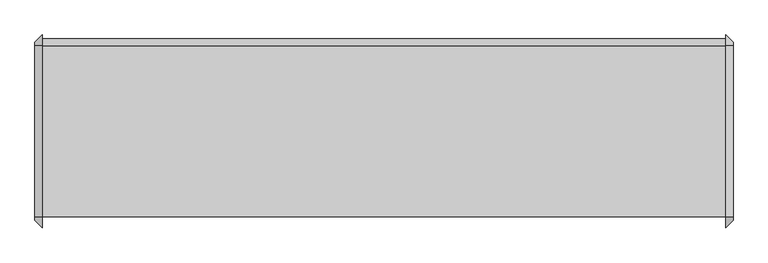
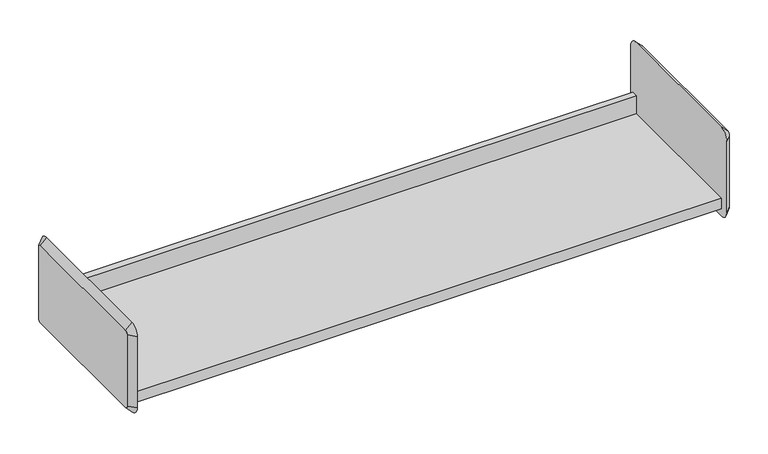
"""IFC4 building model written with IfcOpenShell, lengths in millimetres: furniture geometry."""

from ifc_helpers import new_model, si_unit, frame, origin, place, context, project, spatial, polyline, circle_curve, outline, extrude, source, transform, mapped, element, save
from ifc_brep_helpers import plane_surface, revolved_surface, advanced_brep


def furniture_d9179111(model_context):
    return source(origin(), model_context, "Body", "SolidModel", [
        extrude(outline(polyline([(-136.525, 1371.6), (161.925, 1371.6), (161.925, 1409.7), (174.625, 1409.7), (174.625, 1406.525), (165.1, 1406.525), (165.1, 1368.425), (-133.35, 1368.425), (-133.35, 1349.375), (-136.525, 1349.375), (-136.525, 1371.6)])), frame((-720.8420045, 0.0, 0.0), z_axis=(1.0, 0.0, 0.0), x_axis=(0.0, 1.0, 0.0)), (0.0, 0.0, 1.0), 1193.8),
        advanced_brep(
        [(485.6579955, 161.925, 1511.3), (485.6579955, -136.525, 1511.3), (485.6579955, -142.875, 1504.95), (485.6579955, -142.875, 1352.55), (485.6579955, -136.525, 1346.2), (485.6579955, 161.925, 1346.2), (485.6579955, 168.275, 1352.55), (485.6579955, 168.275, 1504.95), (472.9579955, 161.925, 1524.0), (472.9579955, 180.975, 1504.95), (472.9579955, 180.975, 1352.55), (472.9579955, 161.925, 1333.5), (472.9579955, -136.525, 1333.5), (472.9579955, -155.575, 1352.55), (472.9579955, -155.575, 1504.95), (472.9579955, -136.525, 1524.0)],
        [
            (0, 1),
            (1, 2, circle_curve(frame((485.6579955, -136.525, 1504.95), z_axis=(1.0, 2.0730084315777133e-12, -2.152944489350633e-12), x_axis=(2.152910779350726e-12, 0.0, 1.0)), 6.35)),
            (2, 3),
            (3, 4, circle_curve(frame((485.6579955, -136.525, 1352.55), z_axis=(1.0, 2.059685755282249e-12, 2.067679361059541e-12), x_axis=(2.059647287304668e-12, -1.0, 0.0)), 6.35)),
            (4, 5),
            (5, 6, circle_curve(frame((485.6579955, 161.925, 1352.55), z_axis=(1.0, 2.0889956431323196e-12, -2.0889956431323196e-12), x_axis=(-2.089008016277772e-12, 0.0, -1.0)), 6.35)),
            (6, 7),
            (7, 0, circle_curve(frame((485.6579955, 161.925, 1504.95), z_axis=(1.0, 2.078337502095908e-12, 2.003730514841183e-12), x_axis=(-2.078331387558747e-12, 1.0, 0.0)), 6.35)),
            (8, 9, circle_curve(frame((472.9579955, 161.925, 1504.95), z_axis=(-1.0, -2.078337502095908e-12, -2.003730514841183e-12), x_axis=(-2.078331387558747e-12, 1.0, 0.0)), 19.05)),
            (9, 10),
            (10, 11, circle_curve(frame((472.9579955, 161.925, 1352.55), z_axis=(-1.0, -2.0889956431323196e-12, 2.0889956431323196e-12), x_axis=(-2.089008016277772e-12, 0.0, -1.0)), 19.05)),
            (11, 12),
            (12, 13, circle_curve(frame((472.9579955, -136.525, 1352.55), z_axis=(-1.0, -2.059685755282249e-12, -2.067679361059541e-12), x_axis=(2.059647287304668e-12, -1.0, 0.0)), 19.05)),
            (13, 14),
            (14, 15, circle_curve(frame((472.9579955, -136.525, 1504.95), z_axis=(-1.0, -2.0730084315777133e-12, 2.152944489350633e-12), x_axis=(2.152910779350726e-12, 0.0, 1.0)), 19.05)),
            (15, 8),
            (15, 1),
            (0, 8),
            (14, 2),
            (13, 3),
            (12, 4),
            (11, 5),
            (10, 6),
            (9, 7),
        ],
        [
            plane_surface(frame((485.6579955, 12.7, 1428.75), z_axis=(1.0, 0.0, 0.0), x_axis=(0.0, -1.0, 0.0))),
            plane_surface(frame((472.9579955, 12.7, 1428.75), z_axis=(-1.0, 0.0, 0.0), x_axis=(0.0, -1.0, 0.0))),
            plane_surface(frame((472.9579955, 12.7, 1524.0), z_axis=(0.707106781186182, 0.0, 0.7071067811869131), x_axis=(0.0, -1.0, 0.0))),
            revolved_surface(polyline([(485.6579955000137, -136.525, 1511.2999999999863), (472.9579955, -136.525, 1524.0)]), (492.0079955, -136.525, 1504.95), (-1.0, -2.0730084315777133e-12, 2.152944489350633e-12)),
            plane_surface(frame((472.9579955, -155.575, 1428.75), z_axis=(0.7071067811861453, -0.7071067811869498, 0.0), x_axis=(0.0, 0.0, -1.0))),
            revolved_surface(polyline([(485.6579955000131, -142.87499999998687, 1352.55), (472.9579954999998, -155.57500000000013, 1352.55)]), (492.0079955, -136.525, 1352.55), (-1.0, -2.059685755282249e-12, -2.067679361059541e-12)),
            plane_surface(frame((472.9579955, 12.7, 1333.5), z_axis=(0.707106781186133, 0.0, -0.707106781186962), x_axis=(0.0, 1.0, 0.0))),
            revolved_surface(polyline([(485.6579955, 161.925, 1346.2), (472.9579954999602, 161.925, 1333.4999999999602)]), (492.0079955, 161.925, 1352.55), (-1.0, -2.0889956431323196e-12, 2.0889956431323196e-12)),
            plane_surface(frame((472.9579955, 180.975, 1428.75), z_axis=(0.7071067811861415, 0.7071067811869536, 0.0), x_axis=(0.0, 0.0, 1.0))),
            revolved_surface(polyline([(485.6579955, 168.27499999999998, 1504.95), (472.95799549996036, 180.97500000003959, 1504.95)]), (492.0079955, 161.925, 1504.95), (-1.0, -2.078337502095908e-12, -2.003730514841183e-12)),
        ],
        [
            (0, [[1, 2, 3, 4, 5, 6, 7, 8]]),
            (1, [[9, 10, 11, 12, 13, 14, 15, 16]]),
            (2, [[-16, 17, -1, 18]]),
            (3, [[-15, 19, -2, -17]]),
            (4, [[-14, 20, -3, -19]]),
            (5, [[-13, 21, -4, -20]]),
            (6, [[-12, 22, -5, -21]]),
            (7, [[-11, 23, -6, -22]]),
            (8, [[-10, 24, -7, -23]]),
            (9, [[-9, -18, -8, -24]]),
        ],
    ),
        advanced_brep(
        [(-733.5420045, -136.525, 1511.3), (-733.5420045, 161.925, 1511.3), (-733.5420045, 168.275, 1504.95), (-733.5420045, 168.275, 1352.55), (-733.5420045, 161.925, 1346.2), (-733.5420045, -136.525, 1346.2), (-733.5420045, -142.875, 1352.55), (-733.5420045, -142.875, 1504.95), (-720.8420045, -136.525, 1524.0), (-720.8420045, -155.575, 1504.95), (-720.8420045, -155.575, 1352.55), (-720.8420045, -136.525, 1333.5), (-720.8420045, 161.925, 1333.5), (-720.8420045, 180.975, 1352.55), (-720.8420045, 180.975, 1504.95), (-720.8420045, 161.925, 1524.0)],
        [
            (0, 1),
            (1, 2, circle_curve(frame((-733.5420045, 161.925, 1504.95), z_axis=(-1.0, 0.0, 0.0), x_axis=(0.0, 0.0, 1.0)), 6.35)),
            (2, 3),
            (3, 4, circle_curve(frame((-733.5420045, 161.925, 1352.55), z_axis=(-1.0, 0.0, 0.0), x_axis=(0.0, 1.0, 0.0)), 6.35)),
            (4, 5),
            (5, 6, circle_curve(frame((-733.5420045, -136.525, 1352.55), z_axis=(-1.0, 0.0, 0.0), x_axis=(0.0, 0.0, -1.0)), 6.35)),
            (6, 7),
            (7, 0, circle_curve(frame((-733.5420045, -136.525, 1504.95), z_axis=(-1.0, 0.0, 0.0), x_axis=(0.0, -1.0, 0.0)), 6.35)),
            (8, 9, circle_curve(frame((-720.8420045, -136.525, 1504.95), z_axis=(1.0, 0.0, 0.0), x_axis=(0.0, -1.0, 0.0)), 19.05)),
            (9, 10),
            (10, 11, circle_curve(frame((-720.8420045, -136.525, 1352.55), z_axis=(1.0, 0.0, 0.0), x_axis=(0.0, 0.0, -1.0)), 19.05)),
            (11, 12),
            (12, 13, circle_curve(frame((-720.8420045, 161.925, 1352.55), z_axis=(1.0, 0.0, 0.0), x_axis=(0.0, 1.0, 0.0)), 19.05)),
            (13, 14),
            (14, 15, circle_curve(frame((-720.8420045, 161.925, 1504.95), z_axis=(1.0, 0.0, 0.0), x_axis=(0.0, 0.0, 1.0)), 19.05)),
            (15, 8),
            (15, 1),
            (0, 8),
            (14, 2),
            (13, 3),
            (12, 4),
            (11, 5),
            (10, 6),
            (9, 7),
        ],
        [
            plane_surface(frame((-733.5420045, 12.7, 1428.75), z_axis=(-1.0, 0.0, 0.0), x_axis=(0.0, -1.0, 0.0))),
            plane_surface(frame((-720.8420045, 12.7, 1428.75), z_axis=(1.0, 0.0, 0.0), x_axis=(0.0, -1.0, 0.0))),
            plane_surface(frame((-720.8420045, 12.7, 1524.0), z_axis=(-0.7071067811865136, 0.0, 0.7071067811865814), x_axis=(0.0, 1.0, 0.0))),
            revolved_surface(polyline([(-733.5420045, 161.925, 1511.3000000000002), (-720.8420045, 161.925, 1524.0)]), (-739.8920045, 161.925, 1504.95), (1.0, 0.0, 0.0)),
            plane_surface(frame((-720.8420045, 180.975, 1428.75), z_axis=(-0.7071067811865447, 0.7071067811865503, 0.0), x_axis=(0.0, 0.0, -1.0))),
            revolved_surface(polyline([(-733.5420045, 168.27500000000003, 1352.55), (-720.8420045, 180.975, 1352.55)]), (-739.8920045, 161.925, 1352.55), (1.0, 0.0, 0.0)),
            plane_surface(frame((-720.8420045, 12.7, 1333.5), z_axis=(-0.7071067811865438, 0.0, -0.7071067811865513), x_axis=(0.0, -1.0, 0.0))),
            revolved_surface(polyline([(-733.5420045, -136.525, 1346.1999999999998), (-720.8420045, -136.525, 1333.5)]), (-739.8920045, -136.525, 1352.55), (1.0, 0.0, 0.0)),
            plane_surface(frame((-720.8420045, -155.575, 1428.75), z_axis=(-0.7071067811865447, -0.7071067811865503, 0.0), x_axis=(0.0, 0.0, 1.0))),
            revolved_surface(polyline([(-733.5420045, -142.87500000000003, 1504.95), (-720.8420045, -155.575, 1504.95)]), (-739.8920045, -136.525, 1504.95), (1.0, 0.0, 0.0)),
        ],
        [
            (0, [[1, 2, 3, 4, 5, 6, 7, 8]]),
            (1, [[9, 10, 11, 12, 13, 14, 15, 16]]),
            (2, [[-16, 17, -1, 18]]),
            (3, [[-15, 19, -2, -17]]),
            (4, [[-14, 20, -3, -19]]),
            (5, [[-13, 21, -4, -20]]),
            (6, [[-12, 22, -5, -21]]),
            (7, [[-11, 23, -6, -22]]),
            (8, [[-10, 24, -7, -23]]),
            (9, [[-9, -18, -8, -24]]),
        ],
    ),
    ])


if __name__ == "__main__":
    model = new_model("IFC4")
    model_context = context("Model", 3, world=origin())
    ifc_project = project(units=[si_unit("LENGTHUNIT", "METRE", prefix="MILLI")], contexts=[model_context])
    site = spatial("IfcSite", under=ifc_project)
    building = spatial("IfcBuilding", under=site)
    placement = place(None, origin())
    furniture_shape = furniture_d9179111(model_context)
    element("IfcFurniture", 1, ObjectType="HermanMiller_ActionOffice_A3220_B-StyleStorageDisplay : Shelf 13\"D x 48\"W", at=placement, inside=building, context=model_context, shape_type="MappedRepresentation", body=[
        mapped(furniture_shape, transform((0.0, 0.0, 0.0), x_axis=(1.0, 0.0, 0.0), y_axis=(0.0, 1.0, 0.0), z_axis=(0.0, 0.0, 1.0))),
    ])
    save(model, "model.ifc")
